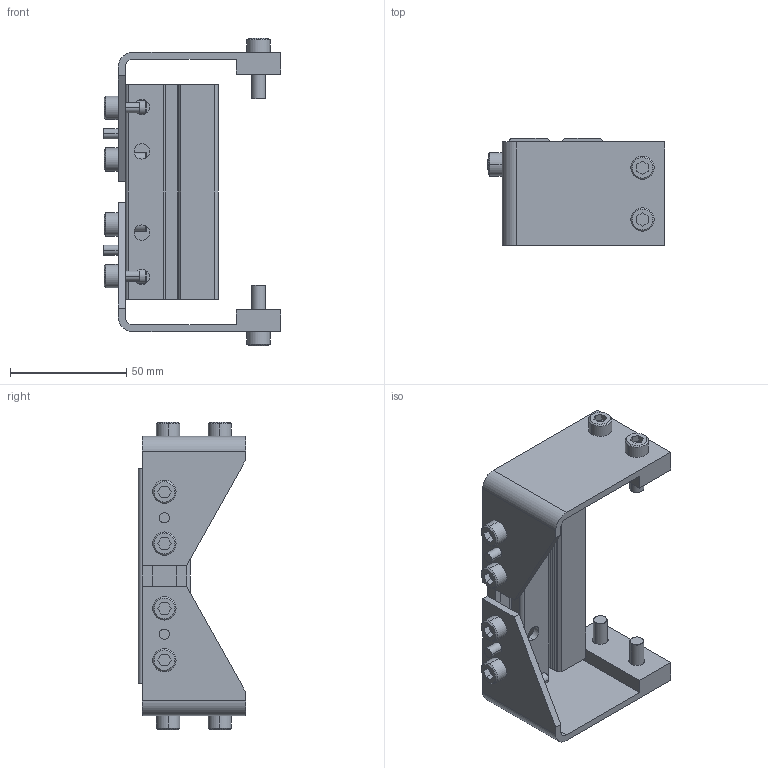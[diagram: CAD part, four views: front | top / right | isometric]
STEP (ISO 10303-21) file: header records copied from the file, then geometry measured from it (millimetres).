
FILE_DESCRIPTION((''),'2;1');
FILE_NAME('3076WWM_2_ASM','2023-03-15T',('jenni.wallner'),(''),'PRO/ENGINEER BY PARAMETRIC TECHNOLOGY CORPORATION, 2012420','PRO/ENGINEER BY PARAMETRIC TECHNOLOGY CORPORATION, 2012420','');
FILE_SCHEMA(('CONFIG_CONTROL_DESIGN'));
Length unit declared in the file: inch
Products named in the file (4): 677721_1; BRACKET_L; BRACKET_R; 3076WWM_2_ASM
Assembly tree (3 placements, depth 2):
  3076WWM_2_ASM
    677721_1
    BRACKET_L
    BRACKET_R
Bounding box: 76.2 x 46.13 x 132.07 mm (x, y, z)
Volume: 82287.5 mm3; surface area: 51347.7 mm2
Topology: 3 solids, 3 shells, 296 faces, 730 edges, 476 vertices
Faces by surface type: plane 188, cylinder 76, cone 32
Entity records: 8834 total; most frequent: DIRECTION 1520, CARTESIAN_POINT 1509, ORIENTED_EDGE 1460, EDGE_CURVE 730, VECTOR 546, LINE 546, AXIS2_PLACEMENT_3D 487, VERTEX_POINT 476
